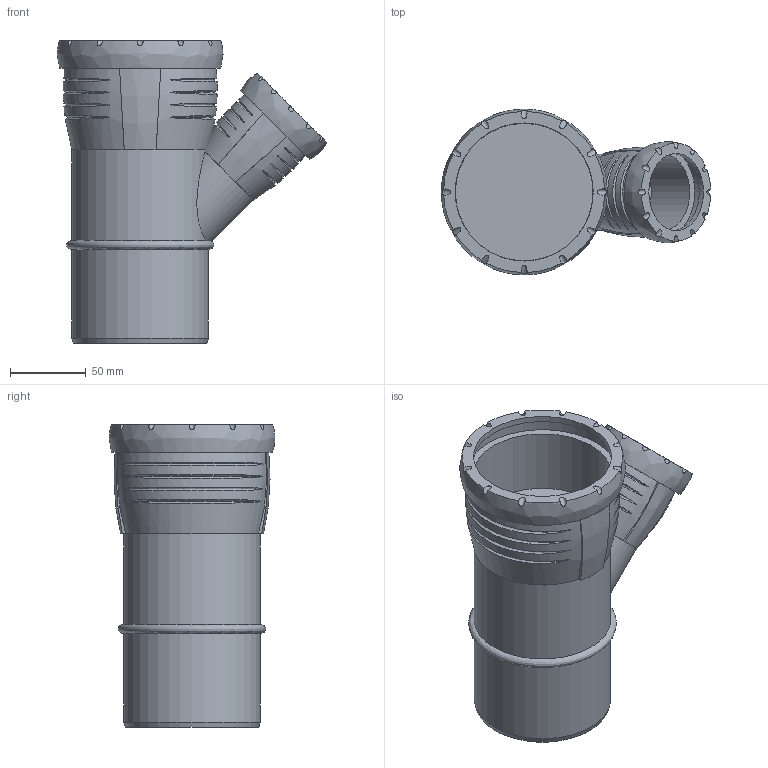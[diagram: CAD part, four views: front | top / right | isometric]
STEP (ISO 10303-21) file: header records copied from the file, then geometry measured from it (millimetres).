
FILE_DESCRIPTION(/* description */ (''),/* implementation_level */ '2;1');
FILE_NAME(/* name */ 'H:\Geberit-Teile\Export\Abzweig PP\stp\393432.stp',/* time_stamp */ '2017-02-13T13:17:07+01:00',/* author */ ('seihe2'),/* organization */ (''),/* preprocessor_version */ 'ST-DEVELOPER v15.2',/* originating_system */ 'Autodesk Inventor 2014',/* authorisation */ '');
FILE_SCHEMA (('AUTOMOTIVE_DESIGN { 1 0 10303 214 3 1 1 }'));
Length unit declared in the file: millimetre
Products named in the file (1): 393432
Bounding box: 177.97 x 109.47 x 200 mm (x, y, z)
Volume: 876252.3 mm3; surface area: 167874.6 mm2
Topology: 5 solids, 5 shells, 104 faces, 239 edges, 170 vertices
Faces by surface type: bspline 47, cylinder 37, plane 19, cone 1
Full cylindrical faces by diameter (mm): 36.243 x1, 50.7 x1, 51 x1, 60.1 x1, 74.497 x1, 81.6 x1, 90.2 x3, 90.9 x1, 91.2 x1, 100.2 x1
Entity records: 7553 total; most frequent: CARTESIAN_POINT 5412, ORIENTED_EDGE 450, DIRECTION 314, EDGE_CURVE 224, VERTEX_POINT 168, AXIS2_PLACEMENT_3D 157, EDGE_LOOP 146, B_SPLINE_CURVE_WITH_KNOTS 123
